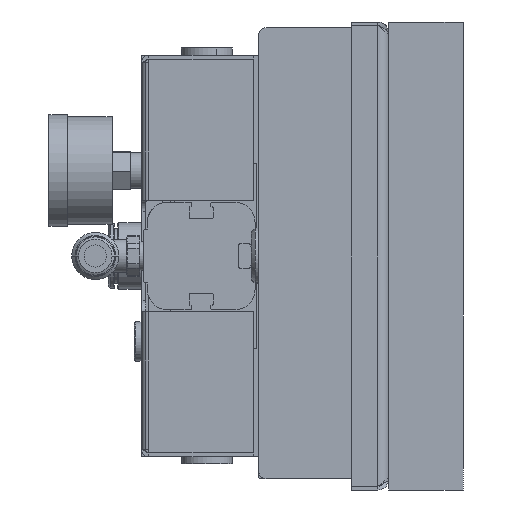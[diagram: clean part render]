
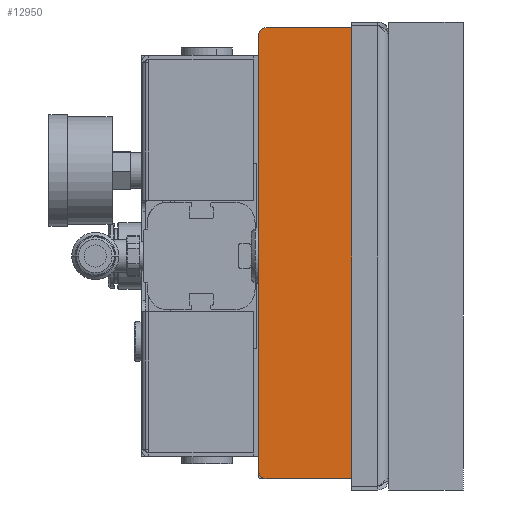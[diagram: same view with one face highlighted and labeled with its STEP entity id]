
A CAD part, left-side view. The second image highlights one B-rep face of the part: STEP entity #12950.
In plain terms, the highlighted planar face has unit normal (-1, 0, 0).
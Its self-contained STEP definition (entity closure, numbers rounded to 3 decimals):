
#5791 = CIRCLE ( 'NONE', #24756, 2. ) ;
#5800 = CIRCLE ( 'NONE', #24758, 2. ) ;
#5820 = CIRCLE ( 'NONE', #24760, 2. ) ;
#5832 = CIRCLE ( 'NONE', #24762, 2. ) ;
#5843 = LINE ( 'NONE', #28051, #5845 ) ;
#5845 = VECTOR ( 'NONE', #28075, 1000. ) ;
#5987 = LINE ( 'NONE', #28592, #5995 ) ;
#5989 = LINE ( 'NONE', #28588, #5992 ) ;
#5992 = VECTOR ( 'NONE', #28589, 1000. ) ;
#5995 = VECTOR ( 'NONE', #28586, 1000. ) ;
#5996 = LINE ( 'NONE', #28598, #5999 ) ;
#5999 = VECTOR ( 'NONE', #28599, 1000. ) ;
#8997 = CARTESIAN_POINT ( 'NONE',  ( -199.453, -13., 61.5 ) ) ;
#9023 = CARTESIAN_POINT ( 'NONE',  ( -199.453, -15., -58. ) ) ;
#12950 = ADVANCED_FACE ( 'NONE', ( #15315 ), #21881, .F. ) ;
#14490 = CARTESIAN_POINT ( 'NONE',  ( -199.453, 15., 59.5 ) ) ;
#14511 = CARTESIAN_POINT ( 'NONE',  ( -199.453, -15., 59.5 ) ) ;
#14547 = CARTESIAN_POINT ( 'NONE',  ( -199.453, 13., -60. ) ) ;
#14770 = CARTESIAN_POINT ( 'NONE',  ( -199.453, 15., -58. ) ) ;
#14776 = CARTESIAN_POINT ( 'NONE',  ( -199.453, 13., 61.5 ) ) ;
#14801 = CARTESIAN_POINT ( 'NONE',  ( -199.453, -13., -60. ) ) ;
#15315 = FACE_OUTER_BOUND ( 'NONE', #23883, .T. ) ;
#21322 = AXIS2_PLACEMENT_3D ( 'NONE', #21854, #21853, #21852 ) ;
#21852 = DIRECTION ( 'NONE',  ( 0., 0., -1. ) ) ;
#21853 = DIRECTION ( 'NONE',  ( 1., 0., 0. ) ) ;
#21854 = CARTESIAN_POINT ( 'NONE',  ( -199.453, 15., -60. ) ) ;
#21881 = PLANE ( 'NONE',  #21322 ) ;
#23883 = EDGE_LOOP ( 'NONE', ( #26194, #26195, #26196, #26199, #26201, #26203, #26205, #26206 ) ) ;
#24756 = AXIS2_PLACEMENT_3D ( 'NONE', #27932, #27934, #27936 ) ;
#24758 = AXIS2_PLACEMENT_3D ( 'NONE', #27970, #27972, #27974 ) ;
#24760 = AXIS2_PLACEMENT_3D ( 'NONE', #28020, #28021, #28023 ) ;
#24762 = AXIS2_PLACEMENT_3D ( 'NONE', #28056, #28058, #28060 ) ;
#26194 = ORIENTED_EDGE ( 'NONE', *, *, #35912, .T. ) ;
#26195 = ORIENTED_EDGE ( 'NONE', *, *, #35905, .T. ) ;
#26196 = ORIENTED_EDGE ( 'NONE', *, *, #36006, .T. ) ;
#26199 = ORIENTED_EDGE ( 'NONE', *, *, #35881, .T. ) ;
#26201 = ORIENTED_EDGE ( 'NONE', *, *, #36008, .T. ) ;
#26203 = ORIENTED_EDGE ( 'NONE', *, *, #35888, .T. ) ;
#26205 = ORIENTED_EDGE ( 'NONE', *, *, #36010, .T. ) ;
#26206 = ORIENTED_EDGE ( 'NONE', *, *, #35898, .T. ) ;
#27932 = CARTESIAN_POINT ( 'NONE',  ( -199.453, 13., -58. ) ) ;
#27934 = DIRECTION ( 'NONE',  ( -1., 0., 0. ) ) ;
#27936 = DIRECTION ( 'NONE',  ( 0., 0., -1. ) ) ;
#27970 = CARTESIAN_POINT ( 'NONE',  ( -199.453, -13., -58. ) ) ;
#27972 = DIRECTION ( 'NONE',  ( -1., 0., 0. ) ) ;
#27974 = DIRECTION ( 'NONE',  ( 0., 0., -1. ) ) ;
#28020 = CARTESIAN_POINT ( 'NONE',  ( -199.453, -13., 59.5 ) ) ;
#28021 = DIRECTION ( 'NONE',  ( -1., 0., 0. ) ) ;
#28023 = DIRECTION ( 'NONE',  ( 0., 0., -1. ) ) ;
#28051 = CARTESIAN_POINT ( 'NONE',  ( -199.453, -15., 61.5 ) ) ;
#28056 = CARTESIAN_POINT ( 'NONE',  ( -199.453, 13., 59.5 ) ) ;
#28058 = DIRECTION ( 'NONE',  ( -1., 0., 0. ) ) ;
#28060 = DIRECTION ( 'NONE',  ( 0., 0., -1. ) ) ;
#28075 = DIRECTION ( 'NONE',  ( 0., 1., 0. ) ) ;
#28586 = DIRECTION ( 'NONE',  ( 0., -1., 0. ) ) ;
#28588 = CARTESIAN_POINT ( 'NONE',  ( -199.453, 15., -60. ) ) ;
#28589 = DIRECTION ( 'NONE',  ( 0., 0., -1. ) ) ;
#28592 = CARTESIAN_POINT ( 'NONE',  ( -199.453, -15., -60. ) ) ;
#28598 = CARTESIAN_POINT ( 'NONE',  ( -199.453, -15., -60. ) ) ;
#28599 = DIRECTION ( 'NONE',  ( 0., 0., 1. ) ) ;
#30163 = VERTEX_POINT ( 'NONE', #14490 ) ;
#30201 = VERTEX_POINT ( 'NONE', #14511 ) ;
#30265 = VERTEX_POINT ( 'NONE', #14547 ) ;
#30891 = VERTEX_POINT ( 'NONE', #14770 ) ;
#30902 = VERTEX_POINT ( 'NONE', #14776 ) ;
#30977 = VERTEX_POINT ( 'NONE', #14801 ) ;
#31088 = VERTEX_POINT ( 'NONE', #8997 ) ;
#31150 = VERTEX_POINT ( 'NONE', #9023 ) ;
#35881 = EDGE_CURVE ( 'NONE', #30891, #30265, #5791, .T. ) ;
#35888 = EDGE_CURVE ( 'NONE', #30977, #31150, #5800, .T. ) ;
#35898 = EDGE_CURVE ( 'NONE', #30201, #31088, #5820, .T. ) ;
#35905 = EDGE_CURVE ( 'NONE', #30902, #30163, #5832, .T. ) ;
#35912 = EDGE_CURVE ( 'NONE', #31088, #30902, #5843, .T. ) ;
#36006 = EDGE_CURVE ( 'NONE', #30163, #30891, #5989, .T. ) ;
#36008 = EDGE_CURVE ( 'NONE', #30265, #30977, #5987, .T. ) ;
#36010 = EDGE_CURVE ( 'NONE', #31150, #30201, #5996, .T. ) ;
